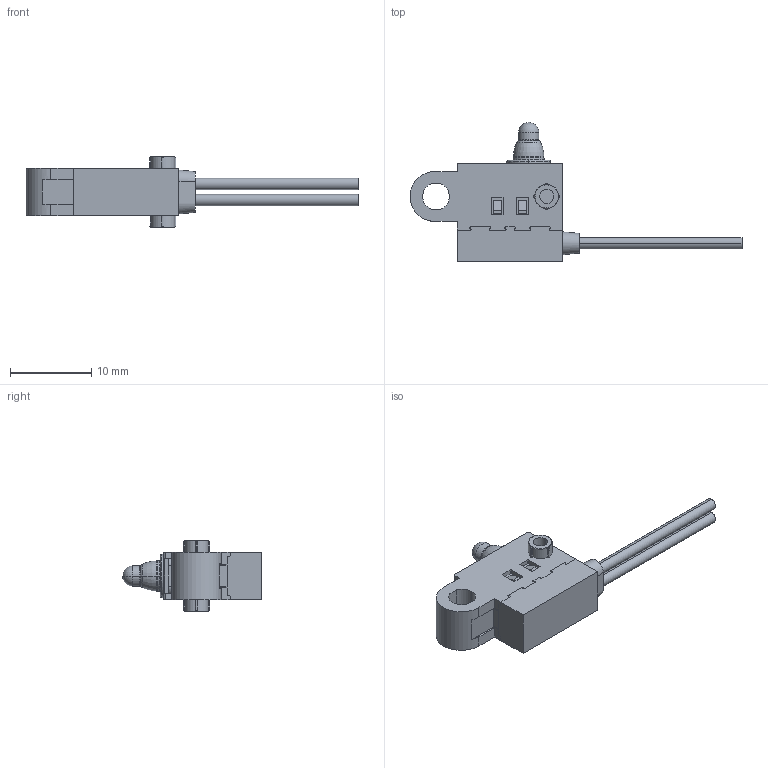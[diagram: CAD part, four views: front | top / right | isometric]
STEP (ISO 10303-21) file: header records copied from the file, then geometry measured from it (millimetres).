
FILE_DESCRIPTION (( 'STEP AP214' ), '1' );
FILE_NAME ('SPVQ361400.STEP', '2011-03-19T07:53:23', ( '' ), ( '' ), 'SwSTEP 2.0', 'SolidWorks 2007', '' );
FILE_SCHEMA (( 'AUTOMOTIVE_DESIGN' ));
Length unit declared in the file: millimetre
Products named in the file (1): SPVQ361400
Bounding box: 40.8 x 17.09 x 8.8 mm (x, y, z)
Volume: 1130.6 mm3; surface area: 1542.7 mm2
Topology: 1 solids, 1 shells, 344 faces, 982 edges, 635 vertices
Faces by surface type: plane 200, cylinder 116, torus 16, cone 8, bspline 2, sphere 2
Entity records: 15121 total; most frequent: CARTESIAN_POINT 2196, ORIENTED_EDGE 1956, DIRECTION 1908, EDGE_CURVE 978, VECTOR 686, LINE 686, VERTEX_POINT 633, AXIS2_PLACEMENT_3D 611
